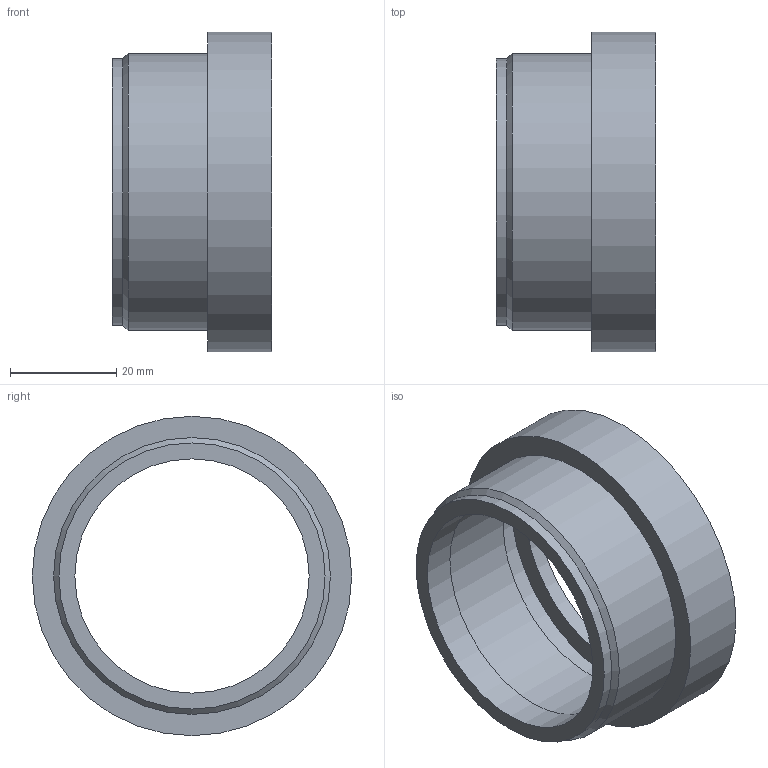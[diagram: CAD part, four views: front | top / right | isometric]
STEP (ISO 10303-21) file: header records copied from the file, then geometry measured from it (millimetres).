
FILE_DESCRIPTION(/* description */ (''),/* implementation_level */ '2;1');
FILE_NAME(/* name */ 'Z:\Geberit\Export\NewStep\361768.stp',/* time_stamp */ '2014-04-01T21:07:49+02:00',/* author */ ('nelson'),/* organization */ (''),/* preprocessor_version */ 'ST-DEVELOPER v15.2',/* originating_system */ 'Autodesk Inventor 2014',/* authorisation */ '');
FILE_SCHEMA (('AUTOMOTIVE_DESIGN { 1 0 10303 214 3 1 1 }'));
Length unit declared in the file: millimetre
Products named in the file (1): 361768
Bounding box: 30 x 60 x 60 mm (x, y, z)
Volume: 19618.5 mm3; surface area: 13344.2 mm2
Topology: 1 solids, 1 shells, 14 faces, 22 edges, 14 vertices
Faces by surface type: cylinder 7, plane 6, cone 1
Full cylindrical faces by diameter (mm): 44 x1, 45.7 x2, 50 x1, 52 x1, 53.5 x1, 60 x1
Entity records: 309 total; most frequent: DIRECTION 58, CARTESIAN_POINT 43, AXIS2_PLACEMENT_3D 29, EDGE_LOOP 28, ORIENTED_EDGE 28, FACE_BOUND 17, CIRCLE 14, VERTEX_POINT 14
